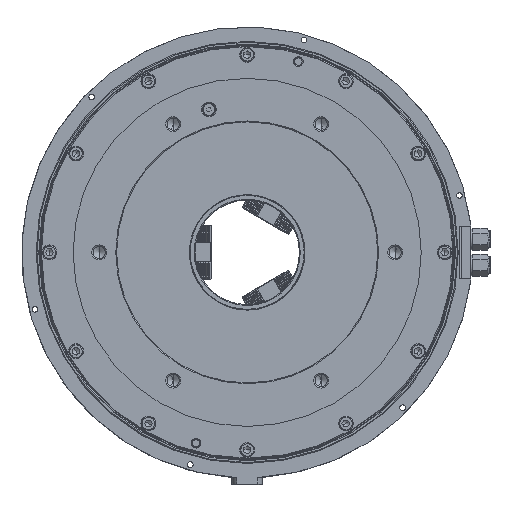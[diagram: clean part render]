
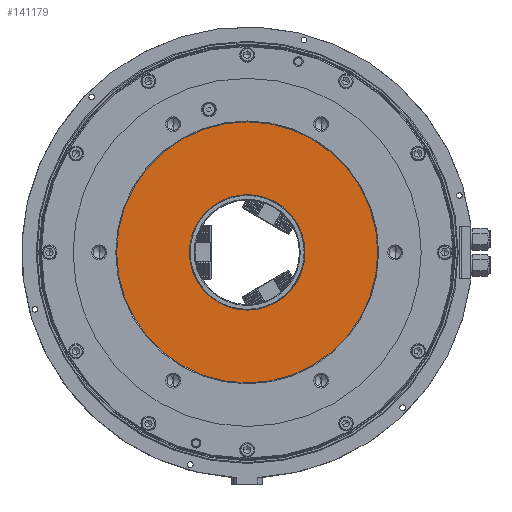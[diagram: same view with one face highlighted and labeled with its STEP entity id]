
A CAD part, left-side view. The second image highlights one B-rep face of the part: STEP entity #141179.
In plain terms, the highlighted planar face has unit normal (-1, 0, 0).
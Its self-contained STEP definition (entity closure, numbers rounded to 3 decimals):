
#6337 = AXIS2_PLACEMENT_3D ( 'NONE', #90255, #39437, #99121 ) ;
#6628 = CIRCLE ( 'NONE', #54246, 66.4 ) ;
#6786 = AXIS2_PLACEMENT_3D ( 'NONE', #62932, #86482, #65270 ) ;
#10504 = FACE_BOUND ( 'NONE', #114256, .T. ) ;
#13196 = EDGE_CURVE ( 'NONE', #63269, #125530, #74474, .T. ) ;
#17086 = EDGE_CURVE ( 'NONE', #82919, #60238, #19880, .T. ) ;
#19378 = CARTESIAN_POINT ( 'NONE',  ( -192., 0., 0. ) ) ;
#19880 = CIRCLE ( 'NONE', #90027, 150. ) ;
#21747 = DIRECTION ( 'NONE',  ( 1., 0., 0. ) ) ;
#28711 = ORIENTED_EDGE ( 'NONE', *, *, #13196, .T. ) ;
#33261 = CIRCLE ( 'NONE', #113503, 150. ) ;
#36846 = EDGE_CURVE ( 'NONE', #125530, #63269, #6628, .T. ) ;
#39437 = DIRECTION ( 'NONE',  ( -1., 0., 0. ) ) ;
#40063 = EDGE_LOOP ( 'NONE', ( #83204, #122142 ) ) ;
#52614 = EDGE_CURVE ( 'NONE', #60238, #82919, #33261, .T. ) ;
#53766 = CARTESIAN_POINT ( 'NONE',  ( -192., 0., -150. ) ) ;
#54246 = AXIS2_PLACEMENT_3D ( 'NONE', #69665, #21747, #105004 ) ;
#58180 = DIRECTION ( 'NONE',  ( 1., 0., 0. ) ) ;
#60238 = VERTEX_POINT ( 'NONE', #136261 ) ;
#62932 = CARTESIAN_POINT ( 'NONE',  ( -192., 0., 0. ) ) ;
#63269 = VERTEX_POINT ( 'NONE', #96911 ) ;
#65270 = DIRECTION ( 'NONE',  ( 0., 0., -1. ) ) ;
#69391 = ORIENTED_EDGE ( 'NONE', *, *, #36846, .T. ) ;
#69665 = CARTESIAN_POINT ( 'NONE',  ( -192., 0., 0. ) ) ;
#74474 = CIRCLE ( 'NONE', #6786, 66.4 ) ;
#82723 = FACE_OUTER_BOUND ( 'NONE', #40063, .T. ) ;
#82919 = VERTEX_POINT ( 'NONE', #53766 ) ;
#83204 = ORIENTED_EDGE ( 'NONE', *, *, #17086, .F. ) ;
#86482 = DIRECTION ( 'NONE',  ( 1., 0., 0. ) ) ;
#90027 = AXIS2_PLACEMENT_3D ( 'NONE', #153214, #58180, #139127 ) ;
#90255 = CARTESIAN_POINT ( 'NONE',  ( -192., 150., 0. ) ) ;
#96911 = CARTESIAN_POINT ( 'NONE',  ( -192., 0., 66.4 ) ) ;
#99121 = DIRECTION ( 'NONE',  ( 0., 0., 1. ) ) ;
#103395 = DIRECTION ( 'NONE',  ( 1., 0., 0. ) ) ;
#105004 = DIRECTION ( 'NONE',  ( 0., 0., -1. ) ) ;
#109146 = CARTESIAN_POINT ( 'NONE',  ( -192., 0., -66.4 ) ) ;
#113503 = AXIS2_PLACEMENT_3D ( 'NONE', #19378, #103395, #151299 ) ;
#114256 = EDGE_LOOP ( 'NONE', ( #28711, #69391 ) ) ;
#122142 = ORIENTED_EDGE ( 'NONE', *, *, #52614, .F. ) ;
#125530 = VERTEX_POINT ( 'NONE', #109146 ) ;
#130637 = PLANE ( 'NONE',  #6337 ) ;
#136261 = CARTESIAN_POINT ( 'NONE',  ( -192., 0., 150. ) ) ;
#139127 = DIRECTION ( 'NONE',  ( 0., 0., -1. ) ) ;
#141179 = ADVANCED_FACE ( 'NONE', ( #10504, #82723 ), #130637, .T. ) ;
#151299 = DIRECTION ( 'NONE',  ( 0., 0., -1. ) ) ;
#153214 = CARTESIAN_POINT ( 'NONE',  ( -192., 0., 0. ) ) ;
